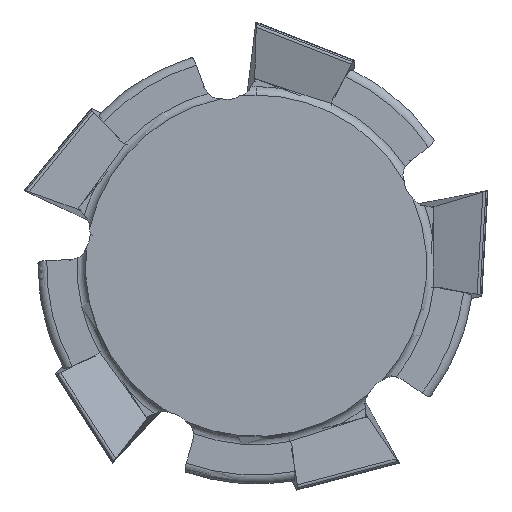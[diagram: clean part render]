
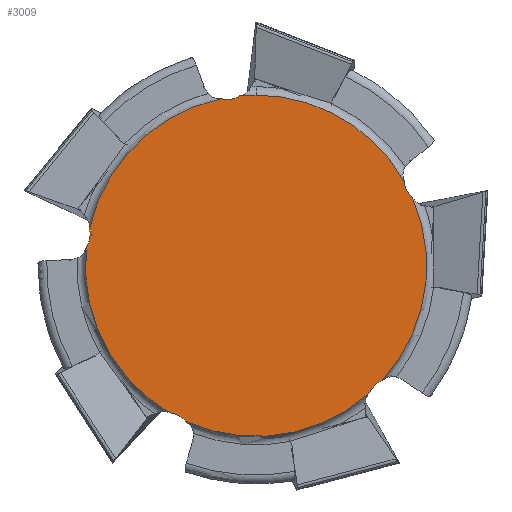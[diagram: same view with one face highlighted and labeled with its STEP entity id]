
A CAD part, left-side view. The second image highlights one B-rep face of the part: STEP entity #3009.
In plain terms, the highlighted planar face has unit normal (-1, 0, 0).
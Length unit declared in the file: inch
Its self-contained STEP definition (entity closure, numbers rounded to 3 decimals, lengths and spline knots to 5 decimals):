
#171 = EDGE_CURVE ( 'NONE', #4553, #3074, #2636, .T. ) ;
#214 =( BOUNDED_CURVE ( )  B_SPLINE_CURVE ( 3, ( #4599, #1549, #2659, #423 ),
 .UNSPECIFIED., .F., .F. ) 
 B_SPLINE_CURVE_WITH_KNOTS ( ( 4, 4 ),
 ( 2.54585, 3.26473 ),
 .UNSPECIFIED. ) 
 CURVE ( )  GEOMETRIC_REPRESENTATION_ITEM ( )  RATIONAL_B_SPLINE_CURVE ( ( 1., 0.957, 0.957, 1. ) ) 
 REPRESENTATION_ITEM ( '' )  );
#217 = CARTESIAN_POINT ( 'NONE',  ( -3.995, -0.56206, 0.2434 ) ) ;
#235 = AXIS2_PLACEMENT_3D ( 'NONE', #3407, #5485, #1803 ) ;
#307 = EDGE_CURVE ( 'NONE', #5384, #4419, #1737, .T. ) ;
#386 = CARTESIAN_POINT ( 'NONE',  ( -3.995, 0.59541, 0.113 ) ) ;
#394 = CARTESIAN_POINT ( 'NONE',  ( -3.995, 0., 0. ) ) ;
#423 = CARTESIAN_POINT ( 'NONE',  ( -3.995, -0.53233, 0.30296 ) ) ;
#453 = CARTESIAN_POINT ( 'NONE',  ( -3.995, 0., 0. ) ) ;
#501 = DIRECTION ( 'NONE',  ( -1., 0., 0. ) ) ;
#524 = CARTESIAN_POINT ( 'NONE',  ( -3.995, 0.59541, 0.09662 ) ) ;
#588 = CARTESIAN_POINT ( 'NONE',  ( -3.995, 0.0785, 0.59729 ) ) ;
#607 = CARTESIAN_POINT ( 'NONE',  ( -3.995, 0.59778, 0.13345 ) ) ;
#683 = CARTESIAN_POINT ( 'NONE',  ( -3.995, 0.10142, 0.59385 ) ) ;
#712 = CARTESIAN_POINT ( 'NONE',  ( -3.995, 0.12363, 0.59989 ) ) ;
#760 = VERTEX_POINT ( 'NONE', #386 ) ;
#880 = CARTESIAN_POINT ( 'NONE',  ( -3.995, -0.53233, 0.30296 ) ) ;
#882 = EDGE_CURVE ( 'NONE', #2266, #6261, #2604, .T. ) ;
#887 = CARTESIAN_POINT ( 'NONE',  ( -3.995, 0.31165, -0.52729 ) ) ;
#982 = PLANE ( 'NONE',  #5193 ) ;
#1127 =( BOUNDED_CURVE ( )  B_SPLINE_CURVE ( 3, ( #5421, #588, #683, #712 ),
 .UNSPECIFIED., .F., .F. ) 
 B_SPLINE_CURVE_WITH_KNOTS ( ( 4, 4 ),
 ( 2.54585, 3.26473 ),
 .UNSPECIFIED. ) 
 CURVE ( )  GEOMETRIC_REPRESENTATION_ITEM ( )  RATIONAL_B_SPLINE_CURVE ( ( 1., 0.957, 0.957, 1. ) ) 
 REPRESENTATION_ITEM ( '' )  );
#1207 = CIRCLE ( 'NONE', #235, 0.6125 ) ;
#1393 = ORIENTED_EDGE ( 'NONE', *, *, #4224, .T. ) ;
#1549 = CARTESIAN_POINT ( 'NONE',  ( -3.995, -0.5438, 0.25923 ) ) ;
#1555 = DIRECTION ( 'NONE',  ( -1., 0., 0. ) ) ;
#1569 = CARTESIAN_POINT ( 'NONE',  ( -3.995, -0.43111, -0.42082 ) ) ;
#1631 = ORIENTED_EDGE ( 'NONE', *, *, #2147, .T. ) ;
#1637 = CARTESIAN_POINT ( 'NONE',  ( -3.995, 0.0578, 0.60977 ) ) ;
#1703 = CARTESIAN_POINT ( 'NONE',  ( -3.995, 0.25259, -0.55799 ) ) ;
#1737 =( BOUNDED_CURVE ( )  B_SPLINE_CURVE ( 3, ( #5412, #4296, #1569, #3739 ),
 .UNSPECIFIED., .F., .F. ) 
 B_SPLINE_CURVE_WITH_KNOTS ( ( 4, 4 ),
 ( 2.54585, 3.26473 ),
 .UNSPECIFIED. ) 
 CURVE ( )  GEOMETRIC_REPRESENTATION_ITEM ( )  RATIONAL_B_SPLINE_CURVE ( ( 1., 0.957, 0.957, 1. ) ) 
 REPRESENTATION_ITEM ( '' )  );
#1745 = CARTESIAN_POINT ( 'NONE',  ( -3.995, 0.59541, 0.1198 ) ) ;
#1769 = CARTESIAN_POINT ( 'NONE',  ( -3.995, 0.5962, 0.12664 ) ) ;
#1803 = DIRECTION ( 'NONE',  ( 0., 0., 1. ) ) ;
#1836 = EDGE_CURVE ( 'NONE', #4419, #2533, #2245, .T. ) ;
#2108 = VERTEX_POINT ( 'NONE', #1703 ) ;
#2130 = DIRECTION ( 'NONE',  ( 0., 0., -1. ) ) ;
#2147 = EDGE_CURVE ( 'NONE', #2857, #4553, #4517, .T. ) ;
#2245 = CIRCLE ( 'NONE', #4170, 0.6125 ) ;
#2266 = VERTEX_POINT ( 'NONE', #5227 ) ;
#2369 = DIRECTION ( 'NONE',  ( -1., 0., 0. ) ) ;
#2444 = CARTESIAN_POINT ( 'NONE',  ( -3.995, -0.40517, -0.45934 ) ) ;
#2533 = VERTEX_POINT ( 'NONE', #217 ) ;
#2575 = FACE_OUTER_BOUND ( 'NONE', #4540, .T. ) ;
#2604 = CIRCLE ( 'NONE', #5148, 0.6125 ) ;
#2608 = EDGE_CURVE ( 'NONE', #2741, #6661, #1207, .T. ) ;
#2636 = CIRCLE ( 'NONE', #3041, 0.6125 ) ;
#2659 = CARTESIAN_POINT ( 'NONE',  ( -3.995, -0.53344, 0.27997 ) ) ;
#2741 = VERTEX_POINT ( 'NONE', #4041 ) ;
#2857 = VERTEX_POINT ( 'NONE', #880 ) ;
#2913 =( BOUNDED_CURVE ( )  B_SPLINE_CURVE ( 3, ( #3726, #524, #4884, #4905 ),
 .UNSPECIFIED., .F., .F. ) 
 B_SPLINE_CURVE_WITH_KNOTS ( ( 4, 4 ),
 ( 2.75802, 3.26473 ),
 .UNSPECIFIED. ) 
 CURVE ( )  GEOMETRIC_REPRESENTATION_ITEM ( )  RATIONAL_B_SPLINE_CURVE ( ( 1., 0.979, 0.979, 1. ) ) 
 REPRESENTATION_ITEM ( '' )  );
#3009 = ADVANCED_FACE ( 'NONE', ( #2575 ), #982, .F. ) ;
#3039 = CARTESIAN_POINT ( 'NONE',  ( -3.995, 0.28757, -0.52936 ) ) ;
#3041 = AXIS2_PLACEMENT_3D ( 'NONE', #394, #6293, #5743 ) ;
#3045 =( BOUNDED_CURVE ( )  B_SPLINE_CURVE ( 3, ( #607, #1769, #1745, #3916 ),
 .UNSPECIFIED., .F., .F. ) 
 B_SPLINE_CURVE_WITH_KNOTS ( ( 4, 4 ),
 ( 2.54585, 2.75802 ),
 .UNSPECIFIED. ) 
 CURVE ( )  GEOMETRIC_REPRESENTATION_ITEM ( )  RATIONAL_B_SPLINE_CURVE ( ( 1., 0.996, 0.996, 1. ) ) 
 REPRESENTATION_ITEM ( '' )  );
#3074 = VERTEX_POINT ( 'NONE', #1637 ) ;
#3096 = DIRECTION ( 'NONE',  ( 0., 0., 1. ) ) ;
#3171 = CARTESIAN_POINT ( 'NONE',  ( -3.995, 0., 0. ) ) ;
#3228 = ORIENTED_EDGE ( 'NONE', *, *, #2608, .T. ) ;
#3404 = ORIENTED_EDGE ( 'NONE', *, *, #6182, .T. ) ;
#3407 = CARTESIAN_POINT ( 'NONE',  ( -3.995, 0., 0. ) ) ;
#3464 = ORIENTED_EDGE ( 'NONE', *, *, #5155, .T. ) ;
#3533 = DIRECTION ( 'NONE',  ( 0., 0., 1. ) ) ;
#3567 = CARTESIAN_POINT ( 'NONE',  ( -3.995, 0.25259, -0.55799 ) ) ;
#3654 =( BOUNDED_CURVE ( )  B_SPLINE_CURVE ( 3, ( #887, #3039, #4094, #3567 ),
 .UNSPECIFIED., .F., .F. ) 
 B_SPLINE_CURVE_WITH_KNOTS ( ( 4, 4 ),
 ( 2.54585, 3.26473 ),
 .UNSPECIFIED. ) 
 CURVE ( )  GEOMETRIC_REPRESENTATION_ITEM ( )  RATIONAL_B_SPLINE_CURVE ( ( 1., 0.957, 0.957, 1. ) ) 
 REPRESENTATION_ITEM ( '' )  );
#3717 = CARTESIAN_POINT ( 'NONE',  ( -3.995, 0.59778, 0.13345 ) ) ;
#3726 = CARTESIAN_POINT ( 'NONE',  ( -3.995, 0.59541, 0.113 ) ) ;
#3739 = CARTESIAN_POINT ( 'NONE',  ( -3.995, -0.45263, -0.41265 ) ) ;
#3753 = DIRECTION ( 'NONE',  ( 0., 0., 1. ) ) ;
#3916 = CARTESIAN_POINT ( 'NONE',  ( -3.995, 0.59541, 0.113 ) ) ;
#4041 = CARTESIAN_POINT ( 'NONE',  ( -3.995, 0.12363, 0.59989 ) ) ;
#4094 = CARTESIAN_POINT ( 'NONE',  ( -3.995, 0.26701, -0.54005 ) ) ;
#4138 = DIRECTION ( 'NONE',  ( 1., 0., 0. ) ) ;
#4159 = ORIENTED_EDGE ( 'NONE', *, *, #6401, .T. ) ;
#4170 = AXIS2_PLACEMENT_3D ( 'NONE', #3171, #1555, #3096 ) ;
#4212 = CARTESIAN_POINT ( 'NONE',  ( -3.995, -0.45263, -0.41265 ) ) ;
#4224 = EDGE_CURVE ( 'NONE', #6261, #2108, #3654, .T. ) ;
#4296 = CARTESIAN_POINT ( 'NONE',  ( -3.995, -0.41458, -0.43708 ) ) ;
#4401 = ORIENTED_EDGE ( 'NONE', *, *, #6627, .T. ) ;
#4419 = VERTEX_POINT ( 'NONE', #4212 ) ;
#4517 = CIRCLE ( 'NONE', #6268, 0.6125 ) ;
#4540 = EDGE_LOOP ( 'NONE', ( #3404, #5888, #4780, #4401, #1631, #5052, #5075, #3228, #4159, #3464, #6352, #1393 ) ) ;
#4553 = VERTEX_POINT ( 'NONE', #6578 ) ;
#4599 = CARTESIAN_POINT ( 'NONE',  ( -3.995, -0.56206, 0.2434 ) ) ;
#4631 = CIRCLE ( 'NONE', #6692, 0.6125 ) ;
#4677 = DIRECTION ( 'NONE',  ( -1., 0., 0. ) ) ;
#4780 = ORIENTED_EDGE ( 'NONE', *, *, #1836, .T. ) ;
#4884 = CARTESIAN_POINT ( 'NONE',  ( -3.995, 0.59995, 0.08122 ) ) ;
#4905 = CARTESIAN_POINT ( 'NONE',  ( -3.995, 0.60874, 0.06779 ) ) ;
#5052 = ORIENTED_EDGE ( 'NONE', *, *, #171, .T. ) ;
#5075 = ORIENTED_EDGE ( 'NONE', *, *, #5257, .T. ) ;
#5148 = AXIS2_PLACEMENT_3D ( 'NONE', #5332, #501, #3753 ) ;
#5155 = EDGE_CURVE ( 'NONE', #760, #2266, #2913, .T. ) ;
#5193 = AXIS2_PLACEMENT_3D ( 'NONE', #6910, #4138, #2130 ) ;
#5227 = CARTESIAN_POINT ( 'NONE',  ( -3.995, 0.60874, 0.06779 ) ) ;
#5257 = EDGE_CURVE ( 'NONE', #3074, #2741, #1127, .T. ) ;
#5332 = CARTESIAN_POINT ( 'NONE',  ( -3.995, 0., 0. ) ) ;
#5384 = VERTEX_POINT ( 'NONE', #2444 ) ;
#5412 = CARTESIAN_POINT ( 'NONE',  ( -3.995, -0.40517, -0.45934 ) ) ;
#5421 = CARTESIAN_POINT ( 'NONE',  ( -3.995, 0.0578, 0.60977 ) ) ;
#5485 = DIRECTION ( 'NONE',  ( -1., 0., 0. ) ) ;
#5674 = CARTESIAN_POINT ( 'NONE',  ( -3.995, 0., 0. ) ) ;
#5743 = DIRECTION ( 'NONE',  ( 0., 0., 1. ) ) ;
#5792 = DIRECTION ( 'NONE',  ( 0., 0., 1. ) ) ;
#5888 = ORIENTED_EDGE ( 'NONE', *, *, #307, .T. ) ;
#6182 = EDGE_CURVE ( 'NONE', #2108, #5384, #4631, .T. ) ;
#6261 = VERTEX_POINT ( 'NONE', #6930 ) ;
#6268 = AXIS2_PLACEMENT_3D ( 'NONE', #5674, #2369, #3533 ) ;
#6293 = DIRECTION ( 'NONE',  ( -1., 0., 0. ) ) ;
#6352 = ORIENTED_EDGE ( 'NONE', *, *, #882, .T. ) ;
#6401 = EDGE_CURVE ( 'NONE', #6661, #760, #3045, .T. ) ;
#6578 = CARTESIAN_POINT ( 'NONE',  ( -3.995, 0., 0.6125 ) ) ;
#6627 = EDGE_CURVE ( 'NONE', #2533, #2857, #214, .T. ) ;
#6661 = VERTEX_POINT ( 'NONE', #3717 ) ;
#6692 = AXIS2_PLACEMENT_3D ( 'NONE', #453, #4677, #5792 ) ;
#6910 = CARTESIAN_POINT ( 'NONE',  ( -3.995, 0., 0. ) ) ;
#6930 = CARTESIAN_POINT ( 'NONE',  ( -3.995, 0.31165, -0.52729 ) ) ;
